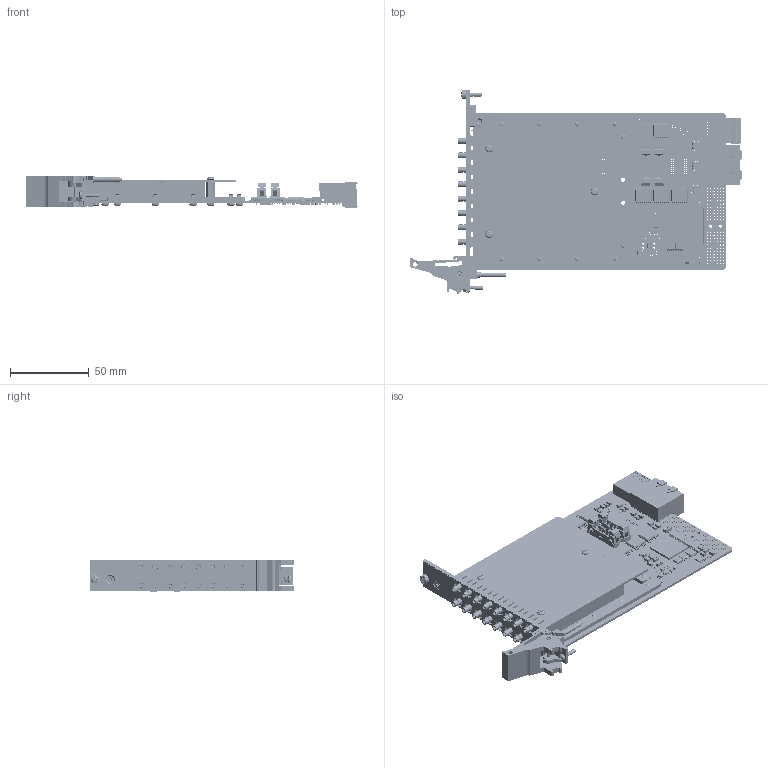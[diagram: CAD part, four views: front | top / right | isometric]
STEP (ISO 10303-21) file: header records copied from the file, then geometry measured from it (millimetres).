
FILE_DESCRIPTION (( 'STEP AP214' ), '1' );
FILE_NAME ('42-877A-002 PXIe RF Matrix Dual 2x2 2.5GHz 50Ohms SMB.step', '2024-01-31T16:16:34', ( '' ), ( '' ), 'SwSTEP 2.0', 'SolidWorks 2023', '' );
FILE_SCHEMA (( 'AUTOMOTIVE_DESIGN' ));
Length unit declared in the file: millimetre
Products named in the file (79): C-FX-165 Handle Body; C-IC-369 FPGA 17000 Cells 65nm Technology 1.2V 256-Pin FTBGA; C-FX-432 M2.5 x 6mm Slotted Screw with Vibra Fix Solution; C-PC-1323 RF MUX MOTHERBOARD WITH PXIe; A-PC-1323-PXIe-# RF MUX MOTHERBOARD; C-BP-015 PXI 3U x 1 Slot Blank Panel; C-IC-338 4-Channel Digital Isolator 16-Pin SOIC W; C-CN-930 SMB EDGE CARD PCB REC 50 OHM; C-MS-1069 Shielded Power Inductor; C-CN-1116 40 WAY PXIE XJ4 TYPE B8 RA F; C-FP-773 PXI 1 SLT 16xSMB Front Panel; C-RS-490 Res 0603 82K SMT; C-CP-139 CAP 4.7UF 1206 16V X7R 10%; C-FX-683 RF Mother and Daughter Screen without Pickering Logo_bENDS; C-IC-426 32-Flash Memory Standard Serial NOR 32Mbit SPI WSOIC-8; C-IC-425 SOICN 8PIN SD; A-PC-573-# 40-877 Daughter Card; C-RS-147 Res 100R 0603 1-16W 1% 100PPM; C-CN-897 2x8 way Connector 1.27 pitch; C-FX-165 Handle Pin; C-IC-546 24 BIT BUS SWITCH 56PIN TVSOP; A-PC-1323-PXIe RF MUX MOTHERBOARD; C-IC-548 1-Bit Flip-Flop 8-Pin SM8; C-CN-107-BODY; Z-FX-2001 FP Fixing - Bush + Screw; A-PC-572-# 40-877 Daughter Card; C-RS-256 Res 100K (0603) 1.16W 1% 100pp SMT; G-FP-588 PXI  8xSMA RF Lser Cut Gasket; C-CN-1422-BODY PXIE XJ3 RA F TH SD; C-RL-230 50 OHM 5V SMT RF RELAY_no text; C-CP-141 CAP 10UF 1206 35V X5R 10%; C-BK-026 Bush Front Panel Mounting; C-CP-033 Capacitor 10nF SMT 0603; C-CP-124 CAP 10nF CERAMIC SMT 0402; A-FP-773 PXI 1 SLT 16xSMB FP+Label Assembly; C-RS-152 Res 10K 0603 1-16W 1% 300PPM; A-FP-773-L1 PXI 1 SLT 16xSMB FP Full Assembly; C-CN-1116-Body 40 WAY PXIE XJ4 TYPE B8 RA F; C-CN-1071; C-FX-165 CPCI Ejector Handle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
Assembly tree (255 placements, depth 5):
  42-877A-002 PXIe RF Matrix Dual 2x2 2.5GHz 50Ohms SMB
    A-PC-1323-PXIe RF MUX MOTHERBOARD
      A-PC-1323-PXIe-# RF MUX MOTHERBOARD
        C-PC-1323 RF MUX MOTHERBOARD WITH PXIe
        C-CN-897 2x8 way Connector 1.27 pitch  x2
        C-CN-1071
          C-CN-107-BODY
          C-CN-107-PIN  x8
        C-CN-1116 40 WAY PXIE XJ4 TYPE B8 RA F
          C-CN-1116-Body 40 WAY PXIE XJ4 TYPE B8 RA F
          C-CN-1116-Shield 40 WAY PXIE XJ4 TYPE B8 RA F
        C-CN-1422 PXIE XJ3 RA F TH SD ASSY
          C-CN-1422-BODY PXIE XJ3 RA F TH SD
        C-CP-033 Capacitor 10nF SMT 0603  x3
        C-CP-034  x31
        C-CP-099 CAP 0.1uF 16V 0402 SMT  x14
        C-CP-124 CAP 10nF CERAMIC SMT 0402  x29
        C-CP-130 CAP 1uF CERAMIC SMT 0603  x4
        C-CP-131 CAP 3.3nF CERAMIC SMT 0402
        C-CP-139 CAP 4.7UF 1206 16V X7R 10%  x4
        C-CP-141 CAP 10UF 1206 35V X5R 10%  x8
        C-CP-175 CAP 22uF 1206 25V X5R 10%  x7
        C-CP-239  Power Line Filter  x3
        C-IC-158 Buffer 3-State SOT-23 5-Pin
        C-IC-310 SOT353 SD
        C-IC-338 4-Channel Digital Isolator 16-Pin SOIC W  x5
        C-IC-369 FPGA 17000 Cells 65nm Technology 1.2V 256-Pin FTBGA
        C-IC-425 SOICN 8PIN SD  x2
        C-IC-426 32-Flash Memory Standard Serial NOR 32Mbit SPI WSOIC-8
        C-IC-442 VSSOP 8PIN SD
        C-IC-458 LDO VOLTAGE REGULATOR 1.2V SOT  x2
        C-IC-497 High Accuracy 3V to 17V Step Down Converter
        C-IC-546 24 BIT BUS SWITCH 56PIN TVSOP  x2
        C-IC-548 1-Bit Flip-Flop 8-Pin SM8
        C-MS-803 BEAD 120R 0603 2A 0R05 25%  x4
        C-MS-1069 Shielded Power Inductor
        C-RS-147 Res 100R 0603 1-16W 1% 100PPM  x2
        C-RS-148 Res 1K 0603 1-16W 1% 100PPM  x2
        C-RS-152 Res 10K 0603 1-16W 1% 300PPM  x5
        C-RS-190 Res 0R0 SIZE 0603 SMT  x5
        C-RS-256 Res 100K (0603) 1.16W 1% 100pp SMT
        C-RS-490 Res 0603 82K SMT
        C-RS-521 Res 120R (0603) 1-16W 1% 100pp
        C-RS-659 RES NW 4K7 4RES 8PINS SMT1206  x4
        C-RS-1247 RES 510K 0603 0.1W 1% 100PPM
        C-RS-1487 RES 100k 0.1W 25PPM 0603
        C-SC-137 TVS DIODE ARRAY
        C-SC-146 Dual Transistor SOT-14  x2
    A-PC-572 40-877 Daughter Card
      A-PC-572-# 40-877 Daughter Card
        C-PC-572 Daughter Card PCB
        C-RL-230 50 OHM 5V SMT RF RELAY_no text  x8
        C-CN-930 SMB EDGE CARD PCB REC 50 OHM  x8
    A-PC-573 40-877 Daughter Card
      A-PC-573-# 40-877 Daughter Card
        C-PC-573 RF 2X2 50R MATRIX DAUGHTER
        C-CN-930 SMB EDGE CARD PCB REC 50 OHM  x8
        C-RL-230 50 OHM 5V SMT RF RELAY_no text  x8
    A-FP-773-L1 PXI 1 SLT 16xSMB FP Full Assembly
      A-FP-773 PXI 1 SLT 16xSMB FP+Label Assembly
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Bounding box: 210.75 x 129.63 x 20.79 mm (x, y, z)
Volume: 87449 mm3; surface area: 116037.8 mm2
Topology: 286 solids, 313 shells, 19772 faces, 49228 edges, 30855 vertices
Faces by surface type: plane 12467, cylinder 4168, cone 2193, torus 744, bspline 124, sphere 76
Entity records: 380810 total; most frequent: CARTESIAN_POINT 55052, DIRECTION 51337, ORIENTED_EDGE 49426, EDGE_CURVE 24715, AXIS2_PLACEMENT_3D 17310, VECTOR 16717, LINE 16717, VERTEX_POINT 15715
